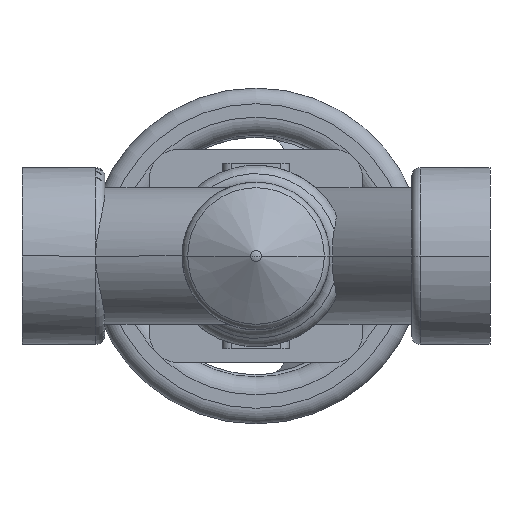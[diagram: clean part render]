
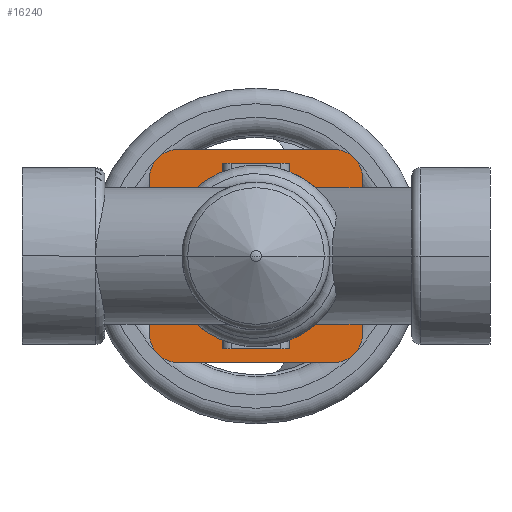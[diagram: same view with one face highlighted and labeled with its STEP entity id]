
A CAD part, front view. The second image highlights one B-rep face of the part: STEP entity #16240.
In plain terms, the highlighted planar face has unit normal (0, -1, 0).
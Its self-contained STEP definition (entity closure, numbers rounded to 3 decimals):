
#4050=CARTESIAN_POINT('',(89.5,57.5,37.62));
#4060=VERTEX_POINT('',#4050);
#4680=CARTESIAN_POINT('',(119.5,57.5,37.62));
#4690=VERTEX_POINT('',#4680);
#4720=CARTESIAN_POINT('',(104.5,57.5,0.));
#4730=DIRECTION('',(0.,1.,0.));
#4740=DIRECTION('',(1.,0.,0.));
#4750=AXIS2_PLACEMENT_3D('',#4720,#4730,#4740);
#4760=CIRCLE('',#4750,40.5);
#4770=CARTESIAN_POINT('',(132.979,57.5,28.796));
#4780=VERTEX_POINT('',#4770);
#4790=EDGE_CURVE('',#4690,#4780,#4760,.T.);
#5610=CARTESIAN_POINT('',(64.,57.5,0.));
#5620=VERTEX_POINT('',#5610);
#5650=CARTESIAN_POINT('',(104.5,57.5,0.));
#5660=DIRECTION('',(0.,1.,0.));
#5670=DIRECTION('',(1.,0.,0.));
#5680=AXIS2_PLACEMENT_3D('',#5650,#5660,#5670);
#5690=CIRCLE('',#5680,40.5);
#5700=EDGE_CURVE('',#5620,#4060,#5690,.T.);
#9500=CARTESIAN_POINT('',(118.239,57.5,0.));
#9510=DIRECTION('',(0.,1.,0.));
#9520=DIRECTION('',(-1.,0.,0.));
#9530=AXIS2_PLACEMENT_3D('',#9500,#9510,#9520);
#9540=ELLIPSE('',#9530,44.722,30.5);
#9550=CARTESIAN_POINT('',(152.148,57.5,-19.885));
#9560=VERTEX_POINT('',#9550);
#9570=CARTESIAN_POINT('',(132.979,57.5,-28.796));
#9580=VERTEX_POINT('',#9570);
#9590=EDGE_CURVE('',#9560,#9580,#9540,.T.);
#11950=CARTESIAN_POINT('',(119.5,57.5,-41.5));
#11960=VERTEX_POINT('',#11950);
#11990=CARTESIAN_POINT('',(130.375,57.5,-41.5));
#12000=DIRECTION('',(-1.,0.,0.));
#12010=VECTOR('',#12000,1.);
#12020=LINE('',#11990,#12010);
#12030=CARTESIAN_POINT('',(89.5,57.5,-41.5));
#12040=VERTEX_POINT('',#12030);
#12050=EDGE_CURVE('',#11960,#12040,#12020,.T.);
#14830=CARTESIAN_POINT('',(156.25,57.5,0.));
#14840=DIRECTION('',(0.,-1.,0.));
#14850=DIRECTION('',(-1.,0.,0.));
#14860=AXIS2_PLACEMENT_3D('',#14830,#14840,#14850);
#14870=PLANE('',#14860);
#14880=ORIENTED_EDGE('',*,*,#4790,.T.);
#14890=CARTESIAN_POINT('',(119.5,57.5,20.75));
#14900=DIRECTION('',(0.,0.,-1.));
#14910=VECTOR('',#14900,1.);
#14920=LINE('',#14890,#14910);
#14930=CARTESIAN_POINT('',(119.5,57.5,41.5));
#14940=VERTEX_POINT('',#14930);
#14950=EDGE_CURVE('',#14940,#4690,#14920,.T.);
#14960=ORIENTED_EDGE('',*,*,#14950,.T.);
#14970=CARTESIAN_POINT('',(130.375,57.5,41.5));
#14980=DIRECTION('',(1.,0.,0.));
#14990=VECTOR('',#14980,1.);
#15000=LINE('',#14970,#14990);
#15010=CARTESIAN_POINT('',(89.5,57.5,41.5));
#15020=VERTEX_POINT('',#15010);
#15030=EDGE_CURVE('',#15020,#14940,#15000,.T.);
#15040=ORIENTED_EDGE('',*,*,#15030,.T.);
#15050=CARTESIAN_POINT('',(89.5,57.5,20.75));
#15060=DIRECTION('',(0.,0.,1.));
#15070=VECTOR('',#15060,1.);
#15080=LINE('',#15050,#15070);
#15090=EDGE_CURVE('',#4060,#15020,#15080,.T.);
#15100=ORIENTED_EDGE('',*,*,#15090,.T.);
#15110=ORIENTED_EDGE('',*,*,#5700,.T.);
#15120=CARTESIAN_POINT('',(89.5,57.5,-37.62));
#15130=VERTEX_POINT('',#15120);
#15140=EDGE_CURVE('',#15130,#5620,#5690,.T.);
#15150=ORIENTED_EDGE('',*,*,#15140,.T.);
#15160=CARTESIAN_POINT('',(89.5,57.5,20.75));
#15170=DIRECTION('',(0.,0.,1.));
#15180=VECTOR('',#15170,1.);
#15190=LINE('',#15160,#15180);
#15200=EDGE_CURVE('',#12040,#15130,#15190,.T.);
#15210=ORIENTED_EDGE('',*,*,#15200,.T.);
#15220=ORIENTED_EDGE('',*,*,#12050,.T.);
#15230=CARTESIAN_POINT('',(119.5,57.5,20.75));
#15240=DIRECTION('',(0.,0.,-1.));
#15250=VECTOR('',#15240,1.);
#15260=LINE('',#15230,#15250);
#15270=CARTESIAN_POINT('',(119.5,57.5,-37.62));
#15280=VERTEX_POINT('',#15270);
#15290=EDGE_CURVE('',#15280,#11960,#15260,.T.);
#15300=ORIENTED_EDGE('',*,*,#15290,.T.);
#15310=CARTESIAN_POINT('',(104.5,57.5,0.));
#15320=DIRECTION('',(0.,1.,0.));
#15330=DIRECTION('',(1.,0.,0.));
#15340=AXIS2_PLACEMENT_3D('',#15310,#15320,#15330);
#15350=CIRCLE('',#15340,40.5);
#15360=EDGE_CURVE('',#9580,#15280,#15350,.T.);
#15370=ORIENTED_EDGE('',*,*,#15360,.T.);
#15380=ORIENTED_EDGE('',*,*,#9590,.T.);
#15390=CARTESIAN_POINT('',(152.148,57.5,-17.324));
#15400=DIRECTION('',(0.,0.,1.));
#15410=VECTOR('',#15400,1.);
#15420=LINE('',#15390,#15410);
#15430=CARTESIAN_POINT('',(152.148,57.5,-34.648));
#15440=VERTEX_POINT('',#15430);
#15450=EDGE_CURVE('',#15440,#9560,#15420,.T.);
#15460=ORIENTED_EDGE('',*,*,#15450,.T.);
#15470=CARTESIAN_POINT('',(139.148,57.5,-34.648));
#15480=DIRECTION('',(0.,-1.,0.));
#15490=DIRECTION('',(1.,0.,0.));
#15500=AXIS2_PLACEMENT_3D('',#15470,#15480,#15490);
#15510=CIRCLE('',#15500,13.);
#15520=CARTESIAN_POINT('',(139.148,57.5,-47.648));
#15530=VERTEX_POINT('',#15520);
#15540=EDGE_CURVE('',#15530,#15440,#15510,.T.);
#15550=ORIENTED_EDGE('',*,*,#15540,.T.);
#15560=CARTESIAN_POINT('',(113.051,57.5,-47.648));
#15570=DIRECTION('',(1.,0.,0.));
#15580=VECTOR('',#15570,1.);
#15590=LINE('',#15560,#15580);
#15600=CARTESIAN_POINT('',(69.852,57.5,-47.648));
#15610=VERTEX_POINT('',#15600);
#15620=EDGE_CURVE('',#15610,#15530,#15590,.T.);
#15630=ORIENTED_EDGE('',*,*,#15620,.T.);
#15640=CARTESIAN_POINT('',(69.852,57.5,-34.648));
#15650=DIRECTION('',(0.,-1.,0.));
#15660=DIRECTION('',(0.,0.,-1.));
#15670=AXIS2_PLACEMENT_3D('',#15640,#15650,#15660);
#15680=CIRCLE('',#15670,13.);
#15690=CARTESIAN_POINT('',(56.852,57.5,-34.648));
#15700=VERTEX_POINT('',#15690);
#15710=EDGE_CURVE('',#15700,#15610,#15680,.T.);
#15720=ORIENTED_EDGE('',*,*,#15710,.T.);
#15730=CARTESIAN_POINT('',(56.852,57.5,17.324));
#15740=DIRECTION('',(0.,0.,-1.));
#15750=VECTOR('',#15740,1.);
#15760=LINE('',#15730,#15750);
#15770=CARTESIAN_POINT('',(56.852,57.5,34.648));
#15780=VERTEX_POINT('',#15770);
#15790=EDGE_CURVE('',#15780,#15700,#15760,.T.);
#15800=ORIENTED_EDGE('',*,*,#15790,.T.);
#15810=CARTESIAN_POINT('',(69.852,57.5,34.648));
#15820=DIRECTION('',(0.,-1.,0.));
#15830=DIRECTION('',(-1.,0.,0.));
#15840=AXIS2_PLACEMENT_3D('',#15810,#15820,#15830);
#15850=CIRCLE('',#15840,13.);
#15860=CARTESIAN_POINT('',(69.852,57.5,47.648));
#15870=VERTEX_POINT('',#15860);
#15880=EDGE_CURVE('',#15870,#15780,#15850,.T.);
#15890=ORIENTED_EDGE('',*,*,#15880,.T.);
#15900=CARTESIAN_POINT('',(147.699,57.5,47.648));
#15910=DIRECTION('',(-1.,0.,0.));
#15920=VECTOR('',#15910,1.);
#15930=LINE('',#15900,#15920);
#15940=CARTESIAN_POINT('',(139.148,57.5,47.648));
#15950=VERTEX_POINT('',#15940);
#15960=EDGE_CURVE('',#15950,#15870,#15930,.T.);
#15970=ORIENTED_EDGE('',*,*,#15960,.T.);
#15980=CARTESIAN_POINT('',(139.148,57.5,34.648));
#15990=DIRECTION('',(0.,-1.,0.));
#16000=DIRECTION('',(0.,0.,1.));
#16010=AXIS2_PLACEMENT_3D('',#15980,#15990,#16000);
#16020=CIRCLE('',#16010,13.);
#16030=CARTESIAN_POINT('',(152.148,57.5,34.648));
#16040=VERTEX_POINT('',#16030);
#16050=EDGE_CURVE('',#16040,#15950,#16020,.T.);
#16060=ORIENTED_EDGE('',*,*,#16050,.T.);
#16070=CARTESIAN_POINT('',(152.148,57.5,-17.324));
#16080=DIRECTION('',(0.,0.,1.));
#16090=VECTOR('',#16080,1.);
#16100=LINE('',#16070,#16090);
#16110=CARTESIAN_POINT('',(152.148,57.5,19.885));
#16120=VERTEX_POINT('',#16110);
#16130=EDGE_CURVE('',#16120,#16040,#16100,.T.);
#16140=ORIENTED_EDGE('',*,*,#16130,.T.);
#16150=CARTESIAN_POINT('',(118.239,57.5,0.));
#16160=DIRECTION('',(0.,1.,0.));
#16170=DIRECTION('',(-1.,0.,0.));
#16180=AXIS2_PLACEMENT_3D('',#16150,#16160,#16170);
#16190=ELLIPSE('',#16180,44.722,30.5);
#16200=EDGE_CURVE('',#4780,#16120,#16190,.T.);
#16210=ORIENTED_EDGE('',*,*,#16200,.T.);
#16220=EDGE_LOOP('',(#16210,#16140,#16060,#15970,#15890,#15800,#15720,
#15630,#15550,#15460,#15380,#15370,#15300,#15220,#15210,#15150,#15110,
#15100,#15040,#14960,#14880));
#16230=FACE_OUTER_BOUND('',#16220,.T.);
#16240=ADVANCED_FACE('',(#16230),#14870,.T.);
